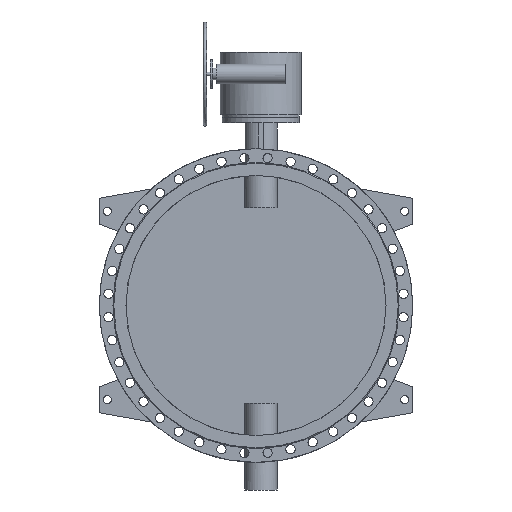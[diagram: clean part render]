
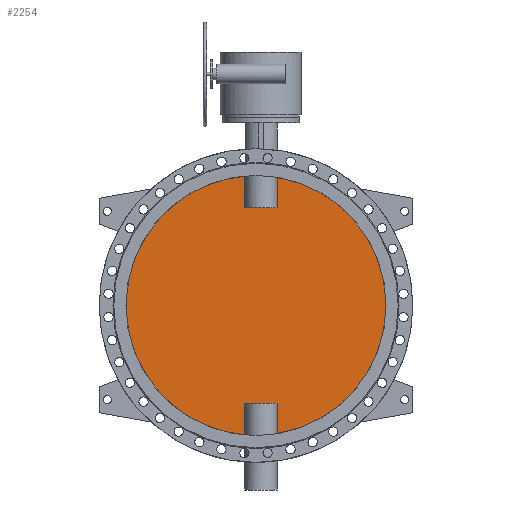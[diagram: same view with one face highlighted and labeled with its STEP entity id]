
A CAD part, front view. The second image highlights one B-rep face of the part: STEP entity #2254.
In plain terms, the highlighted planar face has unit normal (0, -1, 0).
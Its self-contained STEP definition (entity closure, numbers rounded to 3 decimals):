
#2254=ADVANCED_FACE('',(#4819),#4821,.F.);
#4819=FACE_BOUND('',#4820,.T.);
#4820=EDGE_LOOP('',(#6068,#6069,#6070,#6071,#6072,#6073,#6074,#6075));
#4821=PLANE('',#4822);
#4822=AXIS2_PLACEMENT_3D('',#4823,#4824,#4825);
#4823=CARTESIAN_POINT('',(0.,-5.,0.));
#4824=DIRECTION('',(0.,1.,0.));
#4825=DIRECTION('',(1.,0.,0.));
#6068=ORIENTED_EDGE('',*,*,#6652,.T.);
#6069=ORIENTED_EDGE('',*,*,#6658,.T.);
#6070=ORIENTED_EDGE('',*,*,#6659,.T.);
#6071=ORIENTED_EDGE('',*,*,#6660,.T.);
#6072=ORIENTED_EDGE('',*,*,#6654,.T.);
#6073=ORIENTED_EDGE('',*,*,#6661,.T.);
#6074=ORIENTED_EDGE('',*,*,#6662,.T.);
#6075=ORIENTED_EDGE('',*,*,#6663,.T.);
#6652=EDGE_CURVE('',#7633,#7634,#7635,.F.);
#6654=EDGE_CURVE('',#7638,#7636,#7639,.F.);
#6658=EDGE_CURVE('',#7634,#7645,#7646,.T.);
#6659=EDGE_CURVE('',#7645,#7647,#7648,.F.);
#6660=EDGE_CURVE('',#7647,#7638,#7649,.F.);
#6661=EDGE_CURVE('',#7636,#7650,#7651,.F.);
#6662=EDGE_CURVE('',#7650,#7652,#7653,.F.);
#6663=EDGE_CURVE('',#7652,#7633,#7654,.T.);
#7633=VERTEX_POINT('',#10823);
#7634=VERTEX_POINT('',#10824);
#7635=CIRCLE('',#10825,800.);
#7636=VERTEX_POINT('',#10829);
#7638=VERTEX_POINT('',#10929);
#7639=CIRCLE('',#10930,800.);
#7645=VERTEX_POINT('',#11034);
#7646=LINE('',#11035,#11036);
#7647=VERTEX_POINT('',#11038);
#7648=LINE('',#11039,#11040);
#7649=LINE('',#11042,#11043);
#7650=VERTEX_POINT('',#11045);
#7651=LINE('',#11046,#11047);
#7652=VERTEX_POINT('',#11049);
#7653=LINE('',#11050,#11051);
#7654=LINE('',#11053,#11054);
#10823=CARTESIAN_POINT('',(129.875,-5.,-789.387));
#10824=CARTESIAN_POINT('',(129.875,-5.,789.387));
#10825=AXIS2_PLACEMENT_3D('',#10826,#10827,#10828);
#10826=CARTESIAN_POINT('',(0.,-5.,0.));
#10827=DIRECTION('',(0.,1.,0.));
#10828=DIRECTION('',(0.162,0.,0.987));
#10829=CARTESIAN_POINT('',(-69.875,-5.,-796.943));
#10929=CARTESIAN_POINT('',(-69.875,-5.,796.943));
#10930=AXIS2_PLACEMENT_3D('',#10931,#10932,#10933);
#10931=CARTESIAN_POINT('',(0.,-5.,0.));
#10932=DIRECTION('',(0.,1.,0.));
#10933=DIRECTION('',(-0.087,0.,-0.996));
#11034=CARTESIAN_POINT('',(129.875,-5.,600.));
#11035=CARTESIAN_POINT('',(129.875,-5.,789.387));
#11036=VECTOR('',#11037,1.);
#11037=DIRECTION('',(0.,0.,-1.));
#11038=CARTESIAN_POINT('',(-69.875,-5.,600.));
#11039=CARTESIAN_POINT('',(-69.875,-5.,600.));
#11040=VECTOR('',#11041,1.);
#11041=DIRECTION('',(1.,0.,0.));
#11042=CARTESIAN_POINT('',(-69.875,-5.,796.943));
#11043=VECTOR('',#11044,1.);
#11044=DIRECTION('',(0.,0.,-1.));
#11045=CARTESIAN_POINT('',(-69.875,-5.,-600.));
#11046=CARTESIAN_POINT('',(-69.875,-5.,-600.));
#11047=VECTOR('',#11048,1.);
#11048=DIRECTION('',(0.,0.,-1.));
#11049=CARTESIAN_POINT('',(129.875,-5.,-600.));
#11050=CARTESIAN_POINT('',(129.875,-5.,-600.));
#11051=VECTOR('',#11052,1.);
#11052=DIRECTION('',(-1.,0.,0.));
#11053=CARTESIAN_POINT('',(129.875,-5.,-600.));
#11054=VECTOR('',#11055,1.);
#11055=DIRECTION('',(0.,0.,-1.));
